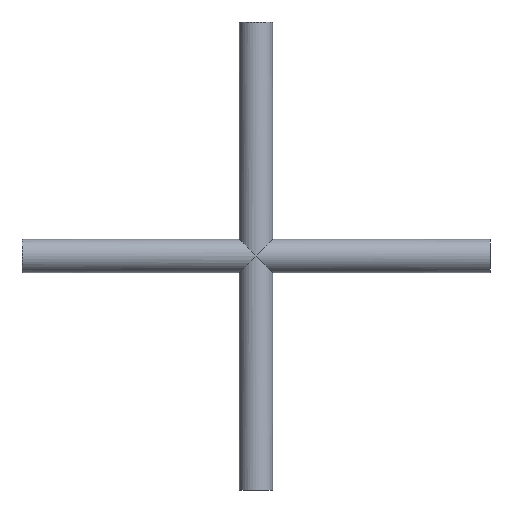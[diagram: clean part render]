
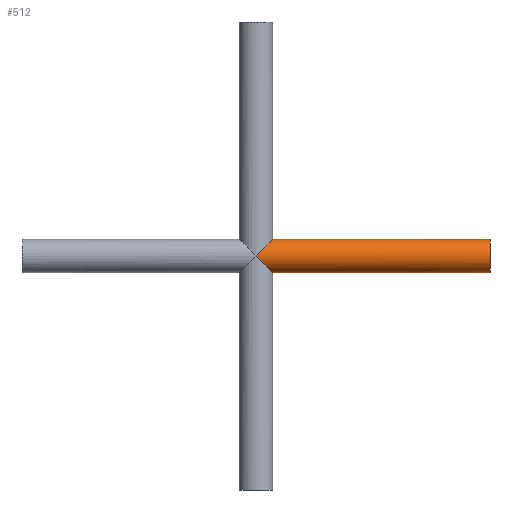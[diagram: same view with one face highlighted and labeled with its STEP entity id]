
A CAD part, front view. The second image highlights one B-rep face of the part: STEP entity #512.
In plain terms, the highlighted cylindrical face has radius 3.175 mm (diameter 6.35 mm), a partial arc.
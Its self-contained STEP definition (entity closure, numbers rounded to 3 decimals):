
#9 = CARTESIAN_POINT ( 'NONE',  ( 3.175, -1.86, 3.175 ) ) ;
#15 = CARTESIAN_POINT ( 'NONE',  ( -44.45, 0., -3.175 ) ) ;
#35 = ORIENTED_EDGE ( 'NONE', *, *, #80, .T. ) ;
#37 = CIRCLE ( 'NONE', #548, 3.175 ) ;
#56 = VERTEX_POINT ( 'NONE', #646 ) ;
#75 = CARTESIAN_POINT ( 'NONE',  ( 3.175, 0., -3.175 ) ) ;
#80 = EDGE_CURVE ( 'NONE', #103, #483, #37, .T. ) ;
#82 = EDGE_CURVE ( 'NONE', #56, #483, #260, .T. ) ;
#83 = CARTESIAN_POINT ( 'NONE',  ( 0., -3.175, 0. ) ) ;
#94 = ORIENTED_EDGE ( 'NONE', *, *, #442, .T. ) ;
#100 = CARTESIAN_POINT ( 'NONE',  ( 1.86, -3.175, -1.86 ) ) ;
#103 = VERTEX_POINT ( 'NONE', #638 ) ;
#106 =( BOUNDED_CURVE ( )  B_SPLINE_CURVE ( 3, ( #257, #9, #564, #255 ),
 .UNSPECIFIED., .F., .T. ) 
 B_SPLINE_CURVE_WITH_KNOTS ( ( 4, 4 ),
 ( 0., 1.571 ),
 .UNSPECIFIED. ) 
 CURVE ( )  GEOMETRIC_REPRESENTATION_ITEM ( )  RATIONAL_B_SPLINE_CURVE ( ( 1., 0.805, 0.805, 1. ) ) 
 REPRESENTATION_ITEM ( '' )  );
#111 = VECTOR ( 'NONE', #430, 1000. ) ;
#123 = CARTESIAN_POINT ( 'NONE',  ( 0., -3.175, 0. ) ) ;
#156 = EDGE_CURVE ( 'NONE', #333, #103, #347, .T. ) ;
#186 = CARTESIAN_POINT ( 'NONE',  ( -44.45, 0., 0. ) ) ;
#225 = FACE_OUTER_BOUND ( 'NONE', #258, .T. ) ;
#255 = CARTESIAN_POINT ( 'NONE',  ( 0., -3.175, 0. ) ) ;
#257 = CARTESIAN_POINT ( 'NONE',  ( 3.175, 0., 3.175 ) ) ;
#258 = EDGE_LOOP ( 'NONE', ( #373, #94, #304, #494, #35 ) ) ;
#260 = LINE ( 'NONE', #631, #602 ) ;
#282 = CYLINDRICAL_SURFACE ( 'NONE', #416, 3.175 ) ;
#304 = ORIENTED_EDGE ( 'NONE', *, *, #622, .F. ) ;
#333 = VERTEX_POINT ( 'NONE', #532 ) ;
#342 = DIRECTION ( 'NONE',  ( 1., 0., 0. ) ) ;
#347 = LINE ( 'NONE', #15, #111 ) ;
#373 = ORIENTED_EDGE ( 'NONE', *, *, #82, .F. ) ;
#416 = AXIS2_PLACEMENT_3D ( 'NONE', #186, #342, #461 ) ;
#430 = DIRECTION ( 'NONE',  ( 1., 0., 0. ) ) ;
#442 = EDGE_CURVE ( 'NONE', #56, #581, #106, .T. ) ;
#447 = DIRECTION ( 'NONE',  ( -1., 0., 0. ) ) ;
#461 = DIRECTION ( 'NONE',  ( 0., 0., -1. ) ) ;
#483 = VERTEX_POINT ( 'NONE', #547 ) ;
#485 = CARTESIAN_POINT ( 'NONE',  ( 44.45, 0., 0. ) ) ;
#494 = ORIENTED_EDGE ( 'NONE', *, *, #156, .T. ) ;
#512 = ADVANCED_FACE ( 'NONE', ( #225 ), #282, .T. ) ;
#528 = CARTESIAN_POINT ( 'NONE',  ( 3.175, -1.86, -3.175 ) ) ;
#532 = CARTESIAN_POINT ( 'NONE',  ( 3.175, 0., -3.175 ) ) ;
#547 = CARTESIAN_POINT ( 'NONE',  ( 44.45, 0., 3.175 ) ) ;
#548 = AXIS2_PLACEMENT_3D ( 'NONE', #485, #447, #635 ) ;
#564 = CARTESIAN_POINT ( 'NONE',  ( 1.86, -3.175, 1.86 ) ) ;
#581 = VERTEX_POINT ( 'NONE', #83 ) ;
#589 =( BOUNDED_CURVE ( )  B_SPLINE_CURVE ( 3, ( #75, #528, #100, #123 ),
 .UNSPECIFIED., .F., .F. ) 
 B_SPLINE_CURVE_WITH_KNOTS ( ( 4, 4 ),
 ( 0., 1.571 ),
 .UNSPECIFIED. ) 
 CURVE ( )  GEOMETRIC_REPRESENTATION_ITEM ( )  RATIONAL_B_SPLINE_CURVE ( ( 1., 0.805, 0.805, 1. ) ) 
 REPRESENTATION_ITEM ( '' )  );
#593 = DIRECTION ( 'NONE',  ( 1., 0., 0. ) ) ;
#602 = VECTOR ( 'NONE', #593, 1000. ) ;
#622 = EDGE_CURVE ( 'NONE', #333, #581, #589, .T. ) ;
#631 = CARTESIAN_POINT ( 'NONE',  ( -44.45, 0., 3.175 ) ) ;
#635 = DIRECTION ( 'NONE',  ( 0., 0., -1. ) ) ;
#638 = CARTESIAN_POINT ( 'NONE',  ( 44.45, 0., -3.175 ) ) ;
#646 = CARTESIAN_POINT ( 'NONE',  ( 3.175, 0., 3.175 ) ) ;
